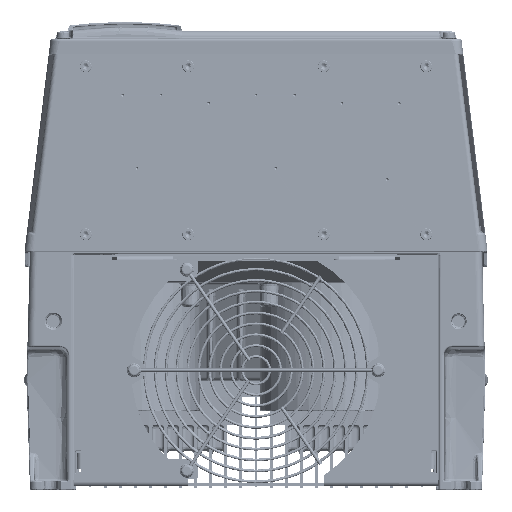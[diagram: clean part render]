
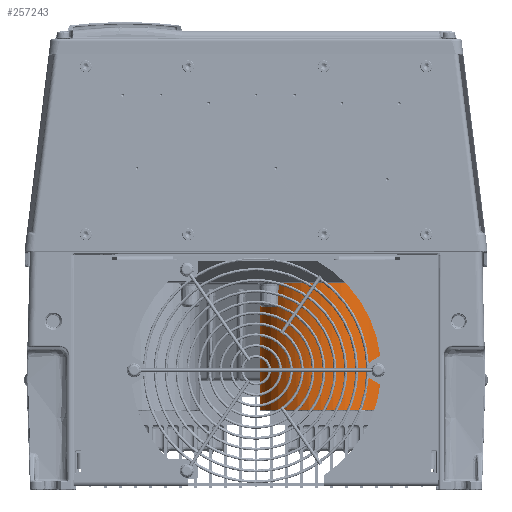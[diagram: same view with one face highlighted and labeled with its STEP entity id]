
A CAD part, front view. The second image highlights one B-rep face of the part: STEP entity #257243.
In plain terms, the highlighted cylindrical face has radius 47.5 mm (diameter 95 mm), a partial arc.
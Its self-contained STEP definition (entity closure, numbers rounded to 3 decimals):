
#1708 = DIRECTION ( 'NONE',  ( 0., 0., 1. ) ) ;
#28208 = VERTEX_POINT ( 'NONE', #197114 ) ;
#28536 = CARTESIAN_POINT ( 'NONE',  ( 73.805, -242.722, -20.615 ) ) ;
#29891 = CARTESIAN_POINT ( 'NONE',  ( 18.611, -237.286, -20.615 ) ) ;
#30311 = CARTESIAN_POINT ( 'NONE',  ( 50., -201.5, -19. ) ) ;
#59221 = CARTESIAN_POINT ( 'NONE',  ( 65.305, -246.574, -20.615 ) ) ;
#60513 = CARTESIAN_POINT ( 'NONE',  ( 12.232, -230.475, -20.615 ) ) ;
#74054 = B_SPLINE_CURVE_WITH_KNOTS ( 'NONE', 3,
 ( #271744, #235480, #204813, #302586, #119410, #333330, #150148, #363988, #180770, #394580, #211626, #28536, #242250, #59221, #273063, #90064, #303918, #120737, #334630, #151458, #365330, #182085, #395854, #212941, #29891, #243581, #60513, #274415, #91395, #305243, #122048, #335970, #152757, #366637 ),
 .UNSPECIFIED., .F., .F.,
 ( 4, 2, 2, 2, 2, 2, 2, 2, 2, 2, 2, 2, 2, 2, 2, 2, 4 ),
 ( 0., 0.063, 0.125, 0.188, 0.25, 0.313, 0.375, 0.438, 0.5, 0.563, 0.625, 0.688, 0.75, 0.813, 0.875, 0.938, 1. ),
 .UNSPECIFIED. ) ;
#75059 = LINE ( 'NONE', #77923, #228054 ) ;
#77923 = CARTESIAN_POINT ( 'NONE',  ( 97.5, -201.5, -19. ) ) ;
#81067 = CARTESIAN_POINT ( 'NONE',  ( 50., -201.5, -107. ) ) ;
#89908 = ORIENTED_EDGE ( 'NONE', *, *, #341148, .F. ) ;
#90064 = CARTESIAN_POINT ( 'NONE',  ( 56.218, -248.694, -20.615 ) ) ;
#91395 = CARTESIAN_POINT ( 'NONE',  ( 7.305, -222.55, -20.615 ) ) ;
#91999 = ORIENTED_EDGE ( 'NONE', *, *, #112772, .T. ) ;
#97820 = EDGE_LOOP ( 'NONE', ( #89908, #91999, #108672, #111418, #126025 ) ) ;
#106916 = CIRCLE ( 'NONE', #252534, 47.5 ) ;
#107008 = EDGE_CURVE ( 'NONE', #138772, #28208, #204220, .T. ) ;
#108617 = DIRECTION ( 'NONE',  ( 0., 0., 1. ) ) ;
#108672 = ORIENTED_EDGE ( 'NONE', *, *, #107008, .T. ) ;
#111418 = ORIENTED_EDGE ( 'NONE', *, *, #344664, .T. ) ;
#111743 = DIRECTION ( 'NONE',  ( 1., 0., 0. ) ) ;
#112772 = EDGE_CURVE ( 'NONE', #220505, #138772, #106916, .T. ) ;
#119410 = CARTESIAN_POINT ( 'NONE',  ( 95.074, -216.805, -20.615 ) ) ;
#120737 = CARTESIAN_POINT ( 'NONE',  ( 46.891, -249., -20.615 ) ) ;
#122048 = CARTESIAN_POINT ( 'NONE',  ( 4.019, -213.816, -20.615 ) ) ;
#126025 = ORIENTED_EDGE ( 'NONE', *, *, #174158, .T. ) ;
#128206 = CARTESIAN_POINT ( 'NONE',  ( 2.552, -203.729, -107. ) ) ;
#138480 = CARTESIAN_POINT ( 'NONE',  ( 50., -201.5, -107. ) ) ;
#138772 = VERTEX_POINT ( 'NONE', #128206 ) ;
#150148 = CARTESIAN_POINT ( 'NONE',  ( 91.222, -225.305, -20.615 ) ) ;
#151458 = CARTESIAN_POINT ( 'NONE',  ( 37.684, -247.481, -20.615 ) ) ;
#151879 = DIRECTION ( 'NONE',  ( 1., 0., 0. ) ) ;
#152757 = CARTESIAN_POINT ( 'NONE',  ( 2.5, -204.609, -20.615 ) ) ;
#160517 = CARTESIAN_POINT ( 'NONE',  ( 97.542, -201.5, -20.613 ) ) ;
#169177 = DIRECTION ( 'NONE',  ( 1., 0., 0. ) ) ;
#174158 = EDGE_CURVE ( 'NONE', #352362, #179436, #74054, .T. ) ;
#179436 = VERTEX_POINT ( 'NONE', #369656 ) ;
#180770 = CARTESIAN_POINT ( 'NONE',  ( 85.786, -232.889, -20.615 ) ) ;
#182085 = CARTESIAN_POINT ( 'NONE',  ( 28.95, -244.195, -20.615 ) ) ;
#188842 = CYLINDRICAL_SURFACE ( 'NONE', #322149, 47.5 ) ;
#197114 = CARTESIAN_POINT ( 'NONE',  ( 97.5, -201.5, -107. ) ) ;
#204220 = CIRCLE ( 'NONE', #273097, 47.5 ) ;
#204813 = CARTESIAN_POINT ( 'NONE',  ( 97.194, -207.718, -20.615 ) ) ;
#211626 = CARTESIAN_POINT ( 'NONE',  ( 78.975, -239.268, -20.615 ) ) ;
#212941 = CARTESIAN_POINT ( 'NONE',  ( 21.025, -239.268, -20.615 ) ) ;
#220505 = VERTEX_POINT ( 'NONE', #356810 ) ;
#228054 = VECTOR ( 'NONE', #108617, 1000. ) ;
#235480 = CARTESIAN_POINT ( 'NONE',  ( 97.5, -204.609, -20.615 ) ) ;
#242250 = CARTESIAN_POINT ( 'NONE',  ( 71.05, -244.195, -20.615 ) ) ;
#243581 = CARTESIAN_POINT ( 'NONE',  ( 14.214, -232.889, -20.615 ) ) ;
#246113 = CARTESIAN_POINT ( 'NONE',  ( 2.5, -201.5, -19. ) ) ;
#252534 = AXIS2_PLACEMENT_3D ( 'NONE', #81067, #294864, #111743 ) ;
#257243 = ADVANCED_FACE ( 'NONE', ( #370750 ), #188842, .T. ) ;
#271744 = CARTESIAN_POINT ( 'NONE',  ( 97.542, -201.5, -20.613 ) ) ;
#273063 = CARTESIAN_POINT ( 'NONE',  ( 62.316, -247.481, -20.615 ) ) ;
#273097 = AXIS2_PLACEMENT_3D ( 'NONE', #138480, #352373, #169177 ) ;
#274415 = CARTESIAN_POINT ( 'NONE',  ( 8.778, -225.305, -20.615 ) ) ;
#294864 = DIRECTION ( 'NONE',  ( 0., 0., 1. ) ) ;
#302586 = CARTESIAN_POINT ( 'NONE',  ( 95.981, -213.816, -20.615 ) ) ;
#303918 = CARTESIAN_POINT ( 'NONE',  ( 53.109, -249., -20.615 ) ) ;
#305243 = CARTESIAN_POINT ( 'NONE',  ( 4.926, -216.805, -20.615 ) ) ;
#313026 = LINE ( 'NONE', #246113, #394150 ) ;
#322149 = AXIS2_PLACEMENT_3D ( 'NONE', #30311, #396278, #151879 ) ;
#333330 = CARTESIAN_POINT ( 'NONE',  ( 92.695, -222.55, -20.615 ) ) ;
#334630 = CARTESIAN_POINT ( 'NONE',  ( 43.782, -248.694, -20.615 ) ) ;
#335970 = CARTESIAN_POINT ( 'NONE',  ( 2.806, -207.718, -20.615 ) ) ;
#341148 = EDGE_CURVE ( 'NONE', #220505, #179436, #313026, .T. ) ;
#344664 = EDGE_CURVE ( 'NONE', #28208, #352362, #75059, .T. ) ;
#352362 = VERTEX_POINT ( 'NONE', #160517 ) ;
#352373 = DIRECTION ( 'NONE',  ( 0., 0., 1. ) ) ;
#356810 = CARTESIAN_POINT ( 'NONE',  ( 2.5, -201.5, -107. ) ) ;
#363988 = CARTESIAN_POINT ( 'NONE',  ( 87.768, -230.475, -20.615 ) ) ;
#365330 = CARTESIAN_POINT ( 'NONE',  ( 34.695, -246.574, -20.615 ) ) ;
#366637 = CARTESIAN_POINT ( 'NONE',  ( 2.458, -201.5, -20.613 ) ) ;
#369656 = CARTESIAN_POINT ( 'NONE',  ( 2.458, -201.5, -20.613 ) ) ;
#370750 = FACE_OUTER_BOUND ( 'NONE', #97820, .T. ) ;
#394150 = VECTOR ( 'NONE', #1708, 1000. ) ;
#394580 = CARTESIAN_POINT ( 'NONE',  ( 81.389, -237.286, -20.615 ) ) ;
#395854 = CARTESIAN_POINT ( 'NONE',  ( 26.195, -242.722, -20.615 ) ) ;
#396278 = DIRECTION ( 'NONE',  ( 0., 0., 1. ) ) ;
